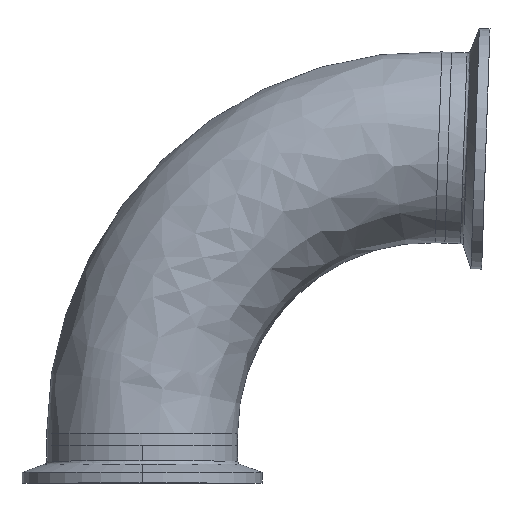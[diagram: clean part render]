
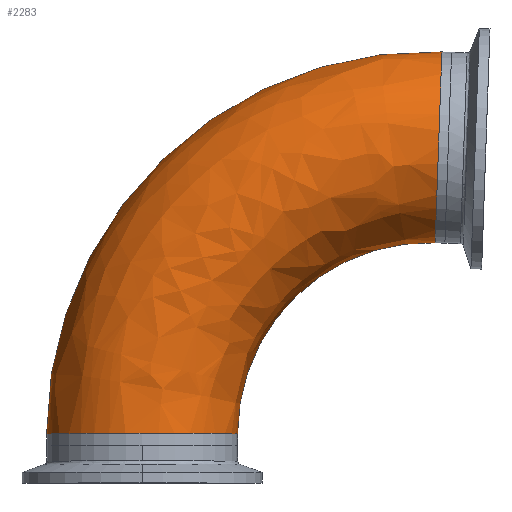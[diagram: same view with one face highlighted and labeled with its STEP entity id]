
A CAD part, top view. The second image highlights one B-rep face of the part: STEP entity #2283.
In plain terms, the highlighted free-form (B-spline) face has degree [3, 3] with [4, 4] control points.
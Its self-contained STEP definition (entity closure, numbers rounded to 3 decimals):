
#112 = CARTESIAN_POINT ( 'NONE',  ( 79.746, 104.724, 50.8 ) ) ;
#250 = EDGE_CURVE ( 'NONE', #2085, #2454, #2399, .T. ) ;
#341 = ORIENTED_EDGE ( 'NONE', *, *, #1462, .T. ) ;
#373 = CARTESIAN_POINT ( 'NONE',  ( -25.4, 3.186, 0. ) ) ;
#389 = CARTESIAN_POINT ( 'NONE',  ( 25.4, 33.774, 50.8 ) ) ;
#474 = CARTESIAN_POINT ( 'NONE',  ( 77.973, 53.955, 0. ) ) ;
#523 = CARTESIAN_POINT ( 'NONE',  ( 78.859, 79.339, 0. ) ) ;
#530 = CARTESIAN_POINT ( 'NONE',  ( 79.746, 104.724, 0. ) ) ;
#627 = AXIS2_PLACEMENT_3D ( 'NONE', #1875, #1881, #1893 ) ;
#644 = CARTESIAN_POINT ( 'NONE',  ( 77.973, 53.955, 50.8 ) ) ;
#702 = EDGE_CURVE ( 'NONE', #2085, #2910, #1516, .T. ) ;
#903 = CARTESIAN_POINT ( 'NONE',  ( 25.4, 33.774, 0. ) ) ;
#938 = AXIS2_PLACEMENT_3D ( 'NONE', #523, #1682, #1695 ) ;
#963 = DIRECTION ( 'NONE',  ( 0., 0., -1. ) ) ;
#1061 = AXIS2_PLACEMENT_3D ( 'NONE', #2539, #963, #2782 ) ;
#1105 = CARTESIAN_POINT ( 'NONE',  ( 25.4, 3.186, 0. ) ) ;
#1164 = CARTESIAN_POINT ( 'NONE',  ( 18.607, 106.859, 0. ) ) ;
#1176 = CARTESIAN_POINT ( 'NONE',  ( 77.973, 53.955, 0. ) ) ;
#1385 = AXIS2_PLACEMENT_3D ( 'NONE', #3165, #3138, #3130 ) ;
#1419 = CARTESIAN_POINT ( 'NONE',  ( -25.4, 3.186, 50.8 ) ) ;
#1429 = EDGE_LOOP ( 'NONE', ( #1596, #1811, #341, #2140 ) ) ;
#1446 = VERTEX_POINT ( 'NONE', #474 ) ;
#1462 = EDGE_CURVE ( 'NONE', #1446, #2910, #2563, .T. ) ;
#1516 = CIRCLE ( 'NONE', #627, 101.6 ) ;
#1596 = ORIENTED_EDGE ( 'NONE', *, *, #250, .T. ) ;
#1682 = DIRECTION ( 'NONE',  ( -0.999, 0.035, 0. ) ) ;
#1689 = CARTESIAN_POINT ( 'NONE',  ( 18.607, 106.859, 50.8 ) ) ;
#1695 = DIRECTION ( 'NONE',  ( 0.035, 0.999, 0. ) ) ;
#1811 = ORIENTED_EDGE ( 'NONE', *, *, #3153, .T. ) ;
#1875 = CARTESIAN_POINT ( 'NONE',  ( 76.2, 3.186, 0. ) ) ;
#1881 = DIRECTION ( 'NONE',  ( 0., 0., -1. ) ) ;
#1893 = DIRECTION ( 'NONE',  ( -1., 0., 0. ) ) ;
#1956 = CARTESIAN_POINT ( 'NONE',  ( 25.4, 3.186, 50.8 ) ) ;
#2037 = CARTESIAN_POINT ( 'NONE',  ( -25.4, 3.186, 0. ) ) ;
#2085 = VERTEX_POINT ( 'NONE', #2037 ) ;
#2140 = ORIENTED_EDGE ( 'NONE', *, *, #702, .F. ) ;
#2218 = CARTESIAN_POINT ( 'NONE',  ( 47.403, 55.022, 50.8 ) ) ;
#2225 = CIRCLE ( 'NONE', #1061, 50.8 ) ;
#2283 = ADVANCED_FACE ( 'NONE', ( #2365 ), #3150, .T. ) ;
#2365 = FACE_OUTER_BOUND ( 'NONE', #1429, .T. ) ;
#2399 = CIRCLE ( 'NONE', #1385, 25.4 ) ;
#2454 = VERTEX_POINT ( 'NONE', #1105 ) ;
#2472 = CARTESIAN_POINT ( 'NONE',  ( -25.4, 64.362, 0. ) ) ;
#2488 = CARTESIAN_POINT ( 'NONE',  ( 25.4, 3.186, 0. ) ) ;
#2539 = CARTESIAN_POINT ( 'NONE',  ( 76.2, 3.186, 0. ) ) ;
#2563 = CIRCLE ( 'NONE', #938, 25.4 ) ;
#2726 = CARTESIAN_POINT ( 'NONE',  ( 47.403, 55.022, 0. ) ) ;
#2782 = DIRECTION ( 'NONE',  ( -1., 0., 0. ) ) ;
#2910 = VERTEX_POINT ( 'NONE', #530 ) ;
#2964 = CARTESIAN_POINT ( 'NONE',  ( 79.746, 104.724, 0. ) ) ;
#3130 = DIRECTION ( 'NONE',  ( -1., 0., 0. ) ) ;
#3138 = DIRECTION ( 'NONE',  ( 0., 1., 0. ) ) ;
#3150 =( BOUNDED_SURFACE ( )  B_SPLINE_SURFACE ( 3, 3, ( 
 ( #373, #2472, #1164, #2964 ),
 ( #1419, #3187, #1689, #112 ),
 ( #1956, #389, #2218, #644 ),
 ( #2488, #903, #2726, #1176 ) ),
 .UNSPECIFIED., .F., .F., .F. ) 
 B_SPLINE_SURFACE_WITH_KNOTS ( ( 4, 4 ),
 ( 4, 4 ),
 ( 0., 1. ),
 ( 0., 1. ),
 .UNSPECIFIED. ) 
 GEOMETRIC_REPRESENTATION_ITEM ( )  RATIONAL_B_SPLINE_SURFACE ( (
 ( 1., 0.796, 0.796, 1.),
 ( 0.333, 0.265, 0.265, 0.333),
 ( 0.333, 0.265, 0.265, 0.333),
 ( 1., 0.796, 0.796, 1.) ) ) 
 REPRESENTATION_ITEM ( '' )  SURFACE ( )  );
#3153 = EDGE_CURVE ( 'NONE', #2454, #1446, #2225, .T. ) ;
#3165 = CARTESIAN_POINT ( 'NONE',  ( 0., 3.186, 0. ) ) ;
#3187 = CARTESIAN_POINT ( 'NONE',  ( -25.4, 64.362, 50.8 ) ) ;
